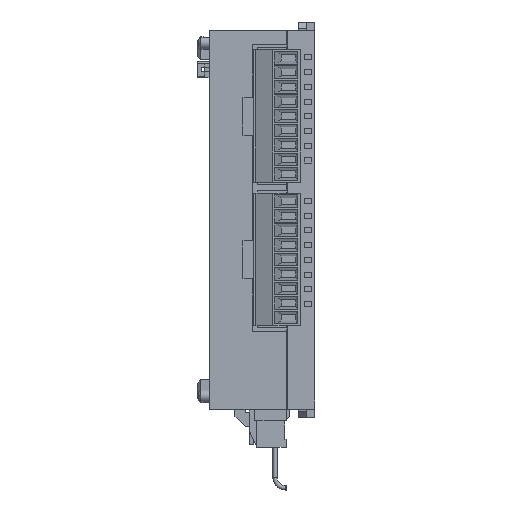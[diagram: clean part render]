
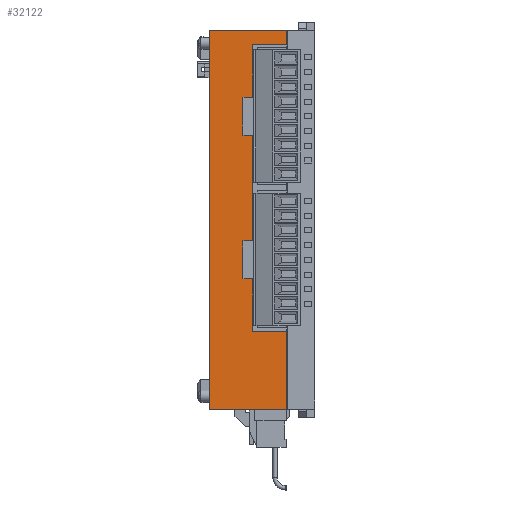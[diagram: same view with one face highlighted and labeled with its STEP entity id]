
A CAD part, top view. The second image highlights one B-rep face of the part: STEP entity #32122.
In plain terms, the highlighted planar face has unit normal (0, 0, 1).
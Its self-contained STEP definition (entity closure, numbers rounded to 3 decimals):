
#5 = VERTEX_POINT ( 'NONE', #7212 ) ;
#8 = ORIENTED_EDGE ( 'NONE', *, *, #32124, .F. ) ;
#11 = VERTEX_POINT ( 'NONE', #7205 ) ;
#19 = EDGE_CURVE ( 'NONE', #26, #32033, #7253, .T. ) ;
#20 = ORIENTED_EDGE ( 'NONE', *, *, #27, .F. ) ;
#26 = VERTEX_POINT ( 'NONE', #7239 ) ;
#27 = EDGE_CURVE ( 'NONE', #32033, #31543, #7244, .T. ) ;
#30 = EDGE_CURVE ( 'NONE', #31543, #32029, #7231, .T. ) ;
#33 = ORIENTED_EDGE ( 'NONE', *, *, #19, .F. ) ;
#34 = EDGE_CURVE ( 'NONE', #5, #56, #7238, .T. ) ;
#35 = EDGE_CURVE ( 'NONE', #32029, #32057, #7284, .T. ) ;
#44 = ORIENTED_EDGE ( 'NONE', *, *, #58, .F. ) ;
#53 = ORIENTED_EDGE ( 'NONE', *, *, #31165, .F. ) ;
#56 = VERTEX_POINT ( 'NONE', #7310 ) ;
#58 = EDGE_CURVE ( 'NONE', #32080, #5, #7302, .T. ) ;
#59 = ORIENTED_EDGE ( 'NONE', *, *, #175, .F. ) ;
#81 = EDGE_CURVE ( 'NONE', #56, #26, #7324, .T. ) ;
#92 = ORIENTED_EDGE ( 'NONE', *, *, #25709, .F. ) ;
#94 = ORIENTED_EDGE ( 'NONE', *, *, #25486, .T. ) ;
#128 = EDGE_LOOP ( 'NONE', ( #32123, #8, #32113, #31730, #20, #33, #31518, #32133, #44, #53, #59, #138, #94, #145, #174, #92 ) ) ;
#138 = ORIENTED_EDGE ( 'NONE', *, *, #150, .F. ) ;
#145 = ORIENTED_EDGE ( 'NONE', *, *, #17939, .T. ) ;
#150 = EDGE_CURVE ( 'NONE', #25464, #166, #7419, .T. ) ;
#166 = VERTEX_POINT ( 'NONE', #7507 ) ;
#174 = ORIENTED_EDGE ( 'NONE', *, *, #29542, .T. ) ;
#175 = EDGE_CURVE ( 'NONE', #166, #31004, #7548, .T. ) ;
#7205 = CARTESIAN_POINT ( 'NONE',  ( -2.3, -26.6, 60. ) ) ;
#7212 = CARTESIAN_POINT ( 'NONE',  ( -4.6, 29.05, 60. ) ) ;
#7228 = DIRECTION ( 'NONE',  ( 0., -1., 0. ) ) ;
#7229 = VECTOR ( 'NONE', #7228, 1000. ) ;
#7230 = CARTESIAN_POINT ( 'NONE',  ( -4.6, -5.05, 60. ) ) ;
#7231 = LINE ( 'NONE', #7230, #7229 ) ;
#7233 = DIRECTION ( 'NONE',  ( -1., 0., 0. ) ) ;
#7234 = VECTOR ( 'NONE', #7233, 1000. ) ;
#7235 = CARTESIAN_POINT ( 'NONE',  ( -2.3, -5.05, 60. ) ) ;
#7238 = LINE ( 'NONE', #7288, #7287 ) ;
#7239 = CARTESIAN_POINT ( 'NONE',  ( -2.3, 20.05, 60. ) ) ;
#7244 = LINE ( 'NONE', #7235, #7234 ) ;
#7250 = DIRECTION ( 'NONE',  ( 0., -1., 0. ) ) ;
#7251 = VECTOR ( 'NONE', #7250, 1000. ) ;
#7252 = CARTESIAN_POINT ( 'NONE',  ( -2.3, 20.05, 60. ) ) ;
#7253 = LINE ( 'NONE', #7252, #7251 ) ;
#7281 = DIRECTION ( 'NONE',  ( 1., 0., 0. ) ) ;
#7282 = VECTOR ( 'NONE', #7281, 1000. ) ;
#7283 = CARTESIAN_POINT ( 'NONE',  ( -4.6, -14.05, 60. ) ) ;
#7284 = LINE ( 'NONE', #7283, #7282 ) ;
#7286 = DIRECTION ( 'NONE',  ( 0., -1., 0. ) ) ;
#7287 = VECTOR ( 'NONE', #7286, 1000. ) ;
#7288 = CARTESIAN_POINT ( 'NONE',  ( -4.6, 29.05, 60. ) ) ;
#7299 = DIRECTION ( 'NONE',  ( -1., 0., 0. ) ) ;
#7300 = VECTOR ( 'NONE', #7299, 1000. ) ;
#7301 = CARTESIAN_POINT ( 'NONE',  ( -2.3, 29.05, 60. ) ) ;
#7302 = LINE ( 'NONE', #7301, #7300 ) ;
#7310 = CARTESIAN_POINT ( 'NONE',  ( -4.6, 20.05, 60. ) ) ;
#7321 = DIRECTION ( 'NONE',  ( 1., 0., 0. ) ) ;
#7322 = VECTOR ( 'NONE', #7321, 1000. ) ;
#7323 = CARTESIAN_POINT ( 'NONE',  ( -4.6, 20.05, 60. ) ) ;
#7324 = LINE ( 'NONE', #7323, #7322 ) ;
#7419 = LINE ( 'NONE', #7468, #7467 ) ;
#7456 = DIRECTION ( 'NONE',  ( 0., -1., 0. ) ) ;
#7467 = VECTOR ( 'NONE', #7456, 1000. ) ;
#7468 = CARTESIAN_POINT ( 'NONE',  ( 5.8, 45., 60. ) ) ;
#7483 = CARTESIAN_POINT ( 'NONE',  ( 5.8, 41.6, 60. ) ) ;
#7507 = CARTESIAN_POINT ( 'NONE',  ( 5.8, 41.6, 60. ) ) ;
#7542 = DIRECTION ( 'NONE',  ( -1., 0., 0. ) ) ;
#7543 = VECTOR ( 'NONE', #7542, 1000. ) ;
#7548 = LINE ( 'NONE', #7483, #7543 ) ;
#16097 = VERTEX_POINT ( 'NONE', #19186 ) ;
#17939 = EDGE_CURVE ( 'NONE', #16097, #19003, #19329, .T. ) ;
#19003 = VERTEX_POINT ( 'NONE', #19347 ) ;
#19186 = CARTESIAN_POINT ( 'NONE',  ( -12.5, 45., 60. ) ) ;
#19310 = DIRECTION ( 'NONE',  ( 0., -1., 0. ) ) ;
#19311 = VECTOR ( 'NONE', #19310, 1000. ) ;
#19328 = CARTESIAN_POINT ( 'NONE',  ( -12.5, 45., 60. ) ) ;
#19329 = LINE ( 'NONE', #19328, #19311 ) ;
#19347 = CARTESIAN_POINT ( 'NONE',  ( -12.5, -45., 60. ) ) ;
#19793 = CARTESIAN_POINT ( 'NONE',  ( 5.8, 45., 60. ) ) ;
#19825 = DIRECTION ( 'NONE',  ( -1., 0., 0. ) ) ;
#19826 = CARTESIAN_POINT ( 'NONE',  ( -12.5, 45., 60. ) ) ;
#19829 = LINE ( 'NONE', #19826, #19830 ) ;
#19830 = VECTOR ( 'NONE', #19825, 1000. ) ;
#20268 = DIRECTION ( 'NONE',  ( 0., -1., 0. ) ) ;
#20275 = VECTOR ( 'NONE', #20268, 1000. ) ;
#20276 = CARTESIAN_POINT ( 'NONE',  ( 5.8, 45., 60. ) ) ;
#20277 = LINE ( 'NONE', #20276, #20275 ) ;
#20280 = CARTESIAN_POINT ( 'NONE',  ( 5.8, -26.6, 60. ) ) ;
#23056 = DIRECTION ( 'NONE',  ( 1., 0., 0. ) ) ;
#23057 = VECTOR ( 'NONE', #23056, 1000. ) ;
#23058 = CARTESIAN_POINT ( 'NONE',  ( -12.5, -45., 60. ) ) ;
#23059 = LINE ( 'NONE', #23058, #23057 ) ;
#23642 = CARTESIAN_POINT ( 'NONE',  ( 5.8, -45., 60. ) ) ;
#25464 = VERTEX_POINT ( 'NONE', #19793 ) ;
#25486 = EDGE_CURVE ( 'NONE', #25464, #16097, #19829, .T. ) ;
#25699 = VERTEX_POINT ( 'NONE', #20280 ) ;
#25709 = EDGE_CURVE ( 'NONE', #25699, #29884, #20277, .T. ) ;
#26182 = CARTESIAN_POINT ( 'NONE',  ( -2.3, 41.6, 60. ) ) ;
#26473 = LINE ( 'NONE', #26485, #26477 ) ;
#26477 = VECTOR ( 'NONE', #26538, 1000. ) ;
#26485 = CARTESIAN_POINT ( 'NONE',  ( -2.3, 41.6, 60. ) ) ;
#26538 = DIRECTION ( 'NONE',  ( 0., -1., 0. ) ) ;
#27157 = CARTESIAN_POINT ( 'NONE',  ( -4.6, -5.05, 60. ) ) ;
#28008 = CARTESIAN_POINT ( 'NONE',  ( -2.3, -5.05, 60. ) ) ;
#28015 = CARTESIAN_POINT ( 'NONE',  ( -4.6, -14.05, 60. ) ) ;
#28091 = CARTESIAN_POINT ( 'NONE',  ( -2.3, 29.05, 60. ) ) ;
#28095 = CARTESIAN_POINT ( 'NONE',  ( -2.3, -14.05, 60. ) ) ;
#28096 = AXIS2_PLACEMENT_3D ( 'NONE', #28184, #28183, #28182 ) ;
#28137 = FACE_OUTER_BOUND ( 'NONE', #128, .T. ) ;
#28141 = DIRECTION ( 'NONE',  ( 1., 0., 0. ) ) ;
#28142 = VECTOR ( 'NONE', #28141, 1000. ) ;
#28143 = CARTESIAN_POINT ( 'NONE',  ( -2.3, -26.6, 60. ) ) ;
#28144 = LINE ( 'NONE', #28143, #28142 ) ;
#28150 = PLANE ( 'NONE',  #28096 ) ;
#28179 = DIRECTION ( 'NONE',  ( 0., -1., 0. ) ) ;
#28180 = VECTOR ( 'NONE', #28179, 1000. ) ;
#28182 = DIRECTION ( 'NONE',  ( 1., 0., 0. ) ) ;
#28183 = DIRECTION ( 'NONE',  ( 0., 0., 1. ) ) ;
#28184 = CARTESIAN_POINT ( 'NONE',  ( -12.5, -45., 60. ) ) ;
#28185 = CARTESIAN_POINT ( 'NONE',  ( -2.3, -14.05, 60. ) ) ;
#28186 = LINE ( 'NONE', #28185, #28180 ) ;
#29542 = EDGE_CURVE ( 'NONE', #19003, #29884, #23059, .T. ) ;
#29884 = VERTEX_POINT ( 'NONE', #23642 ) ;
#31004 = VERTEX_POINT ( 'NONE', #26182 ) ;
#31165 = EDGE_CURVE ( 'NONE', #31004, #32080, #26473, .T. ) ;
#31518 = ORIENTED_EDGE ( 'NONE', *, *, #81, .F. ) ;
#31543 = VERTEX_POINT ( 'NONE', #27157 ) ;
#31730 = ORIENTED_EDGE ( 'NONE', *, *, #30, .F. ) ;
#32029 = VERTEX_POINT ( 'NONE', #28015 ) ;
#32033 = VERTEX_POINT ( 'NONE', #28008 ) ;
#32057 = VERTEX_POINT ( 'NONE', #28095 ) ;
#32080 = VERTEX_POINT ( 'NONE', #28091 ) ;
#32111 = EDGE_CURVE ( 'NONE', #11, #25699, #28144, .T. ) ;
#32113 = ORIENTED_EDGE ( 'NONE', *, *, #35, .F. ) ;
#32122 = ADVANCED_FACE ( 'NONE', ( #28137 ), #28150, .T. ) ;
#32123 = ORIENTED_EDGE ( 'NONE', *, *, #32111, .F. ) ;
#32124 = EDGE_CURVE ( 'NONE', #32057, #11, #28186, .T. ) ;
#32133 = ORIENTED_EDGE ( 'NONE', *, *, #34, .F. ) ;
